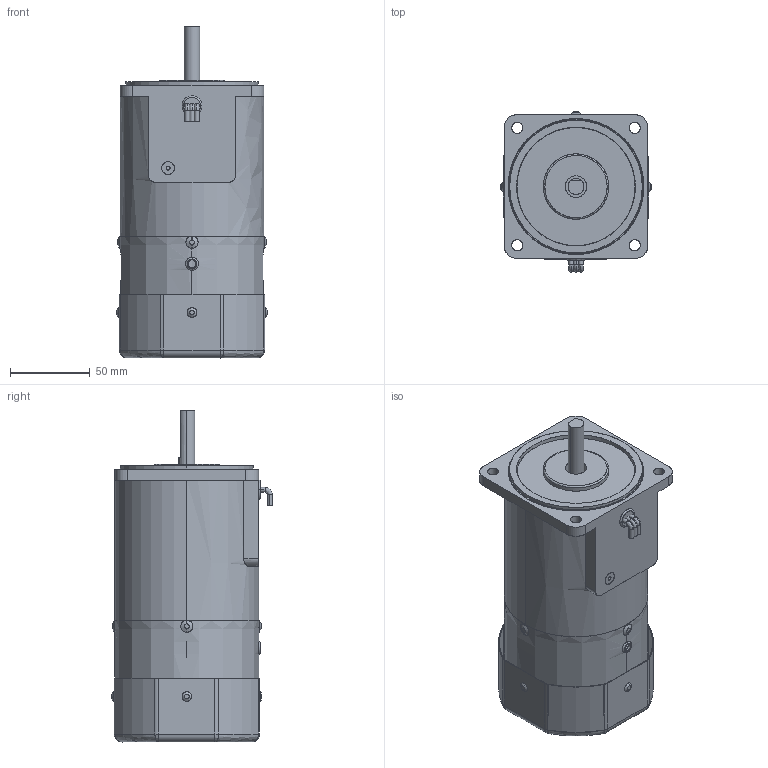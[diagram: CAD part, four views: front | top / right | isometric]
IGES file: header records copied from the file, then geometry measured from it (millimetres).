
Start section: SolidWorks IGES file using analytic representation for surfaces
Bounding box: 94 x 100.5 x 208 mm (x, y, z)
Surface area: 170226.6 mm2 (no closed solid volume)
Topology: 0 solids, 0 shells, 278 faces, 5988 edges, 5972 vertices
Faces by surface type: revolution 154, bspline 124
